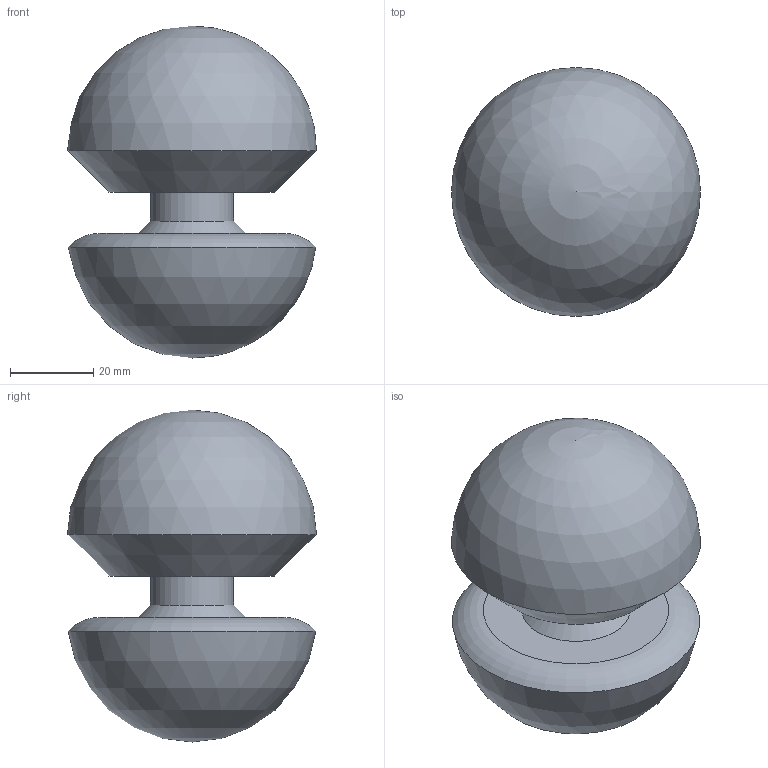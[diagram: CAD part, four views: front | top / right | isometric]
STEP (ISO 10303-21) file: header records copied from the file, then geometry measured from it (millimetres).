
FILE_DESCRIPTION(('HOOPS Exchange Step'),'2;1');
FILE_NAME('/private/var/mobile/Containers/Data/Application/A5B04AB2-2D26-4841-B06D-F3F624D55096/tmp/export/temp_export','2020-11-24T12:31:57+03:00',('mobile'),('Shapr3D Limited'),'HOOPS Exchange 2020.2','Shapr3D','Authorized');
FILE_SCHEMA( ('AP203_CONFIGURATION_CONTROLLED_3D_DESIGN_OF_MECHANICAL_PARTS_AND_ASSEMBLIES_MIM_LF') );
Length unit declared in the file: millimetre
Products named in the file (1): /var/mobile/Containers/Data/Application/A5B04AB2-2D26-4841-B06D-F3F624D55096/Documents/C25A7F4D-021B-43D4-A26F-809FB9D436F0.tmp
Bounding box: 60 x 60 x 80 mm (x, y, z)
Volume: 125120.4 mm3; surface area: 23018.8 mm2
Topology: 2 solids, 2 shells, 11 faces, 29 edges, 20 vertices
Faces by surface type: sphere 4, cone 3, plane 2, cylinder 1, torus 1
Full cylindrical faces by diameter (mm): 20 x1
Entity records: 351 total; most frequent: DIRECTION 66, CARTESIAN_POINT 55, ORIENTED_EDGE 46, AXIS2_PLACEMENT_3D 31, EDGE_CURVE 23, VERTEX_POINT 20, CIRCLE 19, EDGE_LOOP 15
